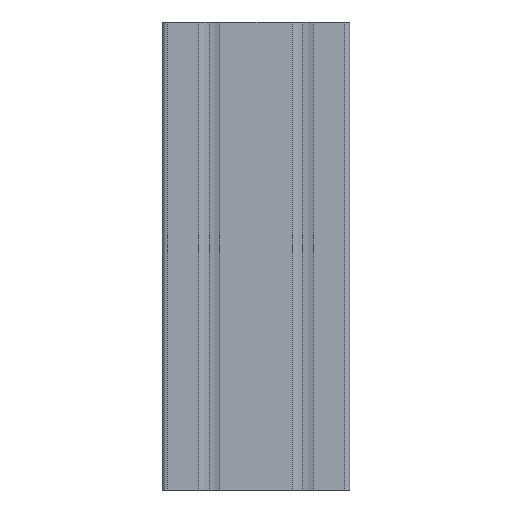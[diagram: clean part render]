
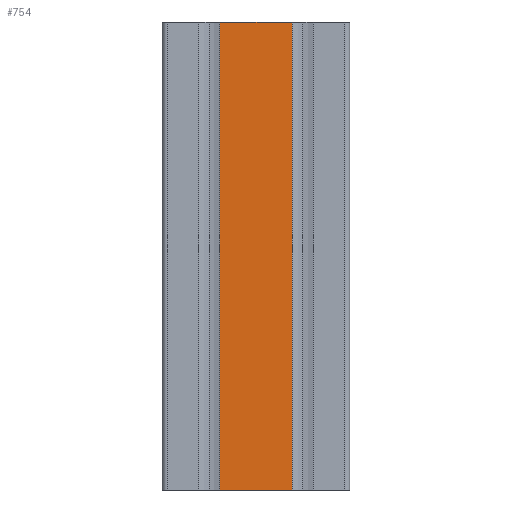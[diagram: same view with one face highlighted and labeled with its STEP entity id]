
A CAD part, left-side view. The second image highlights one B-rep face of the part: STEP entity #754.
In plain terms, the highlighted planar face has unit normal (-1, 0, 0).
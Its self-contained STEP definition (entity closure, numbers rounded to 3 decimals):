
#153 = EDGE_LOOP ( 'NONE', ( #3330, #3137, #2014, #3060 ) ) ;
#193 = VECTOR ( 'NONE', #3849, 1000. ) ;
#295 = DIRECTION ( 'NONE',  ( 0., 1., 0. ) ) ;
#519 = FACE_OUTER_BOUND ( 'NONE', #153, .T. ) ;
#570 = CARTESIAN_POINT ( 'NONE',  ( -20., -7.75, 0. ) ) ;
#582 = CARTESIAN_POINT ( 'NONE',  ( -20., -7.75, -100. ) ) ;
#746 = CARTESIAN_POINT ( 'NONE',  ( -20., -7.75, -100. ) ) ;
#754 = ADVANCED_FACE ( 'NONE', ( #519 ), #968, .F. ) ;
#779 = VERTEX_POINT ( 'NONE', #570 ) ;
#786 = VECTOR ( 'NONE', #1472, 1000. ) ;
#968 = PLANE ( 'NONE',  #1777 ) ;
#1060 = CARTESIAN_POINT ( 'NONE',  ( -20., 0., 0. ) ) ;
#1413 = CARTESIAN_POINT ( 'NONE',  ( -20., 7.75, -100. ) ) ;
#1472 = DIRECTION ( 'NONE',  ( 0., 0., 1. ) ) ;
#1499 = LINE ( 'NONE', #2670, #4126 ) ;
#1725 = CARTESIAN_POINT ( 'NONE',  ( -20., 0., -100. ) ) ;
#1740 = CARTESIAN_POINT ( 'NONE',  ( -20., 7.75, -100. ) ) ;
#1777 = AXIS2_PLACEMENT_3D ( 'NONE', #1725, #3349, #4976 ) ;
#1933 = VECTOR ( 'NONE', #3872, 1000. ) ;
#2014 = ORIENTED_EDGE ( 'NONE', *, *, #2021, .F. ) ;
#2021 = EDGE_CURVE ( 'NONE', #3193, #4858, #1499, .T. ) ;
#2134 = EDGE_CURVE ( 'NONE', #3193, #779, #2754, .T. ) ;
#2644 = LINE ( 'NONE', #1413, #786 ) ;
#2670 = CARTESIAN_POINT ( 'NONE',  ( -20., 0., -100. ) ) ;
#2754 = LINE ( 'NONE', #582, #193 ) ;
#2859 = CARTESIAN_POINT ( 'NONE',  ( -20., 7.75, 0. ) ) ;
#2958 = EDGE_CURVE ( 'NONE', #779, #4441, #3901, .T. ) ;
#3060 = ORIENTED_EDGE ( 'NONE', *, *, #2134, .T. ) ;
#3137 = ORIENTED_EDGE ( 'NONE', *, *, #4256, .F. ) ;
#3193 = VERTEX_POINT ( 'NONE', #746 ) ;
#3330 = ORIENTED_EDGE ( 'NONE', *, *, #2958, .T. ) ;
#3349 = DIRECTION ( 'NONE',  ( 1., 0., 0. ) ) ;
#3849 = DIRECTION ( 'NONE',  ( 0., 0., 1. ) ) ;
#3872 = DIRECTION ( 'NONE',  ( 0., 1., 0. ) ) ;
#3901 = LINE ( 'NONE', #1060, #1933 ) ;
#4126 = VECTOR ( 'NONE', #295, 1000. ) ;
#4256 = EDGE_CURVE ( 'NONE', #4858, #4441, #2644, .T. ) ;
#4441 = VERTEX_POINT ( 'NONE', #2859 ) ;
#4858 = VERTEX_POINT ( 'NONE', #1740 ) ;
#4976 = DIRECTION ( 'NONE',  ( 0., 1., 0. ) ) ;
